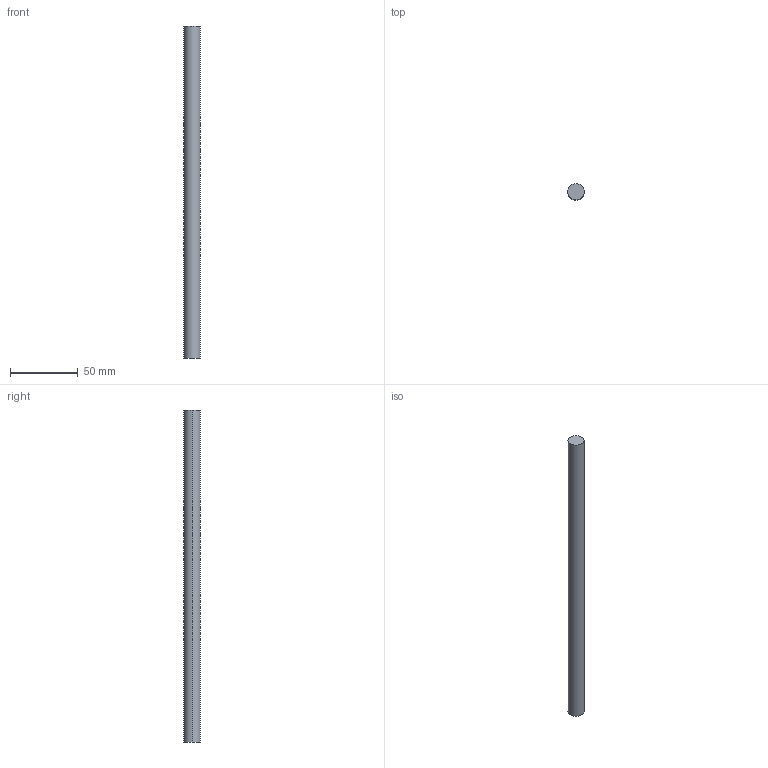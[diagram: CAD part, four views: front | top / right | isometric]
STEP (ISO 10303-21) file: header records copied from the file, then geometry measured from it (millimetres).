
FILE_DESCRIPTION (( 'STEP AP214' ), '1' );
FILE_NAME ('Magic Reling quer - S16_S17 - 350.step', '2010-09-07T14:56:06', ( 'grass' ), ( '' ), 'SwSTEP 2.0', 'SolidWorks 2010', '' );
FILE_SCHEMA (( 'AUTOMOTIVE_DESIGN' ));
Length unit declared in the file: millimetre
Products named in the file (1): Magic Reling quer - S16_S17 - 350
Bounding box: 12 x 12 x 245 mm (x, y, z)
Volume: 27708.8 mm3; surface area: 9462.5 mm2
Topology: 1 solids, 1 shells, 4 faces, 6 edges, 4 vertices
Faces by surface type: cylinder 2, plane 2
Entity records: 128 total; most frequent: DIRECTION 20, CARTESIAN_POINT 15, ORIENTED_EDGE 12, AXIS2_PLACEMENT_3D 9, EDGE_CURVE 6, EDGE_LOOP 4, FACE_OUTER_BOUND 4, CIRCLE 4
